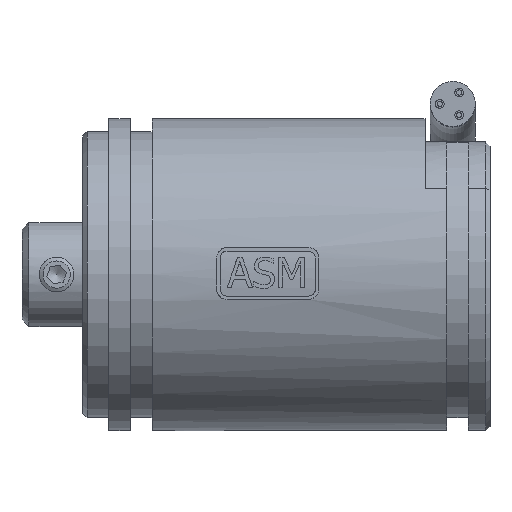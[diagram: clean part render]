
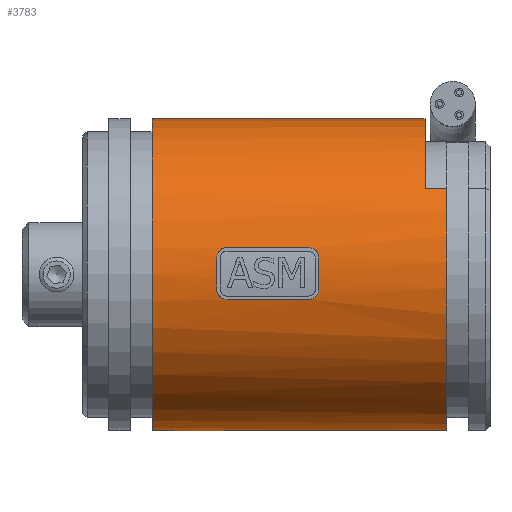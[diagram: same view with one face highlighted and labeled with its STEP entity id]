
A CAD part, top view. The second image highlights one B-rep face of the part: STEP entity #3783.
In plain terms, the highlighted cylindrical face has radius 18 mm (diameter 36 mm), a full revolution.
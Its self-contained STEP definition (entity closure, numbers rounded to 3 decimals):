
#2291=CARTESIAN_POINT('',(-5.538,-1.702,17.919));
#2292=VERTEX_POINT('',#2291);
#2293=CARTESIAN_POINT('',(-5.538,1.887,17.901));
#2294=VERTEX_POINT('',#2293);
#2295=CARTESIAN_POINT('',(-5.538,0.0,0.0));
#2296=DIRECTION('',(-1.0,0.0,0.0));
#2297=DIRECTION('',(0.0,1.0,0.0));
#2298=AXIS2_PLACEMENT_3D('',#2295,#2296,#2297);
#2299=CIRCLE('',#2298,18.);
#2300=EDGE_CURVE('',#2292,#2294,#2299,.T.);
#2371=CARTESIAN_POINT('',(-4.331,3.095,17.732));
#2372=VERTEX_POINT('',#2371);
#2373=CARTESIAN_POINT('',(-5.538,1.887,17.901));
#2374=CARTESIAN_POINT('',(-5.538,2.082,17.88));
#2375=CARTESIAN_POINT('',(-5.487,2.292,17.854));
#2376=CARTESIAN_POINT('',(-5.387,2.473,17.829));
#2377=CARTESIAN_POINT('',(-5.333,2.57,17.816));
#2378=CARTESIAN_POINT('',(-5.266,2.659,17.803));
#2379=CARTESIAN_POINT('',(-5.191,2.734,17.791));
#2380=CARTESIAN_POINT('',(-5.115,2.812,17.779));
#2381=CARTESIAN_POINT('',(-5.024,2.883,17.768));
#2382=CARTESIAN_POINT('',(-4.923,2.939,17.758));
#2383=CARTESIAN_POINT('',(-4.742,3.041,17.741));
#2384=CARTESIAN_POINT('',(-4.528,3.095,17.732));
#2385=CARTESIAN_POINT('',(-4.331,3.095,17.732));
#2386=B_SPLINE_CURVE_WITH_KNOTS('',3,(#2373,#2374,#2375,#2376,#2377,#2378,#2379,#2380,#2381,#2382,#2383,#2384,#2385),.UNSPECIFIED.,.F.,.U.,(4,3,3,3,4),(-0.183,-0.124,-0.092,-0.059,0.0),.UNSPECIFIED.);
#2387=EDGE_CURVE('',#2294,#2372,#2386,.T.);
#2413=CARTESIAN_POINT('',(5.041,3.095,17.732));
#2414=VERTEX_POINT('',#2413);
#2415=CARTESIAN_POINT('',(-4.331,3.095,17.732));
#2416=DIRECTION('',(1.0,0.0,0.0));
#2417=VECTOR('',#2416,9.371);
#2418=LINE('',#2415,#2417);
#2419=EDGE_CURVE('',#2372,#2414,#2418,.T.);
#2444=CARTESIAN_POINT('',(6.248,1.887,17.901));
#2445=VERTEX_POINT('',#2444);
#2446=CARTESIAN_POINT('',(5.041,3.095,17.732));
#2447=CARTESIAN_POINT('',(5.217,3.095,17.732));
#2448=CARTESIAN_POINT('',(5.406,3.053,17.739));
#2449=CARTESIAN_POINT('',(5.573,2.971,17.753));
#2450=CARTESIAN_POINT('',(5.685,2.916,17.762));
#2451=CARTESIAN_POINT('',(5.787,2.844,17.774));
#2452=CARTESIAN_POINT('',(5.872,2.763,17.787));
#2453=CARTESIAN_POINT('',(5.956,2.684,17.799));
#2454=CARTESIAN_POINT('',(6.03,2.591,17.813));
#2455=CARTESIAN_POINT('',(6.089,2.486,17.828));
#2456=CARTESIAN_POINT('',(6.194,2.303,17.853));
#2457=CARTESIAN_POINT('',(6.248,2.087,17.88));
#2458=CARTESIAN_POINT('',(6.248,1.887,17.901));
#2459=B_SPLINE_CURVE_WITH_KNOTS('',3,(#2446,#2447,#2448,#2449,#2450,#2451,#2452,#2453,#2454,#2455,#2456,#2457,#2458),.UNSPECIFIED.,.F.,.U.,(4,3,3,3,4),(0.0,0.053,0.088,0.123,0.183),.UNSPECIFIED.);
#2460=EDGE_CURVE('',#2414,#2445,#2459,.T.);
#2618=CARTESIAN_POINT('',(-4.331,-2.91,17.763));
#2619=VERTEX_POINT('',#2618);
#2620=CARTESIAN_POINT('',(-4.331,-2.91,17.763));
#2621=CARTESIAN_POINT('',(-4.507,-2.91,17.763));
#2622=CARTESIAN_POINT('',(-4.696,-2.868,17.77));
#2623=CARTESIAN_POINT('',(-4.863,-2.786,17.783));
#2624=CARTESIAN_POINT('',(-4.974,-2.732,17.792));
#2625=CARTESIAN_POINT('',(-5.075,-2.661,17.802));
#2626=CARTESIAN_POINT('',(-5.16,-2.58,17.814));
#2627=CARTESIAN_POINT('',(-5.244,-2.5,17.826));
#2628=CARTESIAN_POINT('',(-5.319,-2.407,17.839));
#2629=CARTESIAN_POINT('',(-5.38,-2.301,17.852));
#2630=CARTESIAN_POINT('',(-5.484,-2.118,17.876));
#2631=CARTESIAN_POINT('',(-5.538,-1.902,17.9));
#2632=CARTESIAN_POINT('',(-5.538,-1.702,17.919));
#2633=B_SPLINE_CURVE_WITH_KNOTS('',3,(#2620,#2621,#2622,#2623,#2624,#2625,#2626,#2627,#2628,#2629,#2630,#2631,#2632),.UNSPECIFIED.,.F.,.U.,(4,3,3,3,4),(0.365,0.418,0.453,0.487,0.548),.UNSPECIFIED.);
#2634=EDGE_CURVE('',#2619,#2292,#2633,.T.);
#2660=CARTESIAN_POINT('',(5.041,-2.91,17.763));
#2661=VERTEX_POINT('',#2660);
#2662=CARTESIAN_POINT('',(5.041,-2.91,17.763));
#2663=DIRECTION('',(-1.0,0.0,0.0));
#2664=VECTOR('',#2663,9.371);
#2665=LINE('',#2662,#2664);
#2666=EDGE_CURVE('',#2661,#2619,#2665,.T.);
#2691=CARTESIAN_POINT('',(6.248,-1.702,17.919));
#2692=VERTEX_POINT('',#2691);
#2693=CARTESIAN_POINT('',(6.248,-1.702,17.919));
#2694=CARTESIAN_POINT('',(6.248,-1.897,17.901));
#2695=CARTESIAN_POINT('',(6.197,-2.108,17.877));
#2696=CARTESIAN_POINT('',(6.097,-2.288,17.854));
#2697=CARTESIAN_POINT('',(6.043,-2.385,17.842));
#2698=CARTESIAN_POINT('',(5.975,-2.474,17.829));
#2699=CARTESIAN_POINT('',(5.901,-2.549,17.819));
#2700=CARTESIAN_POINT('',(5.825,-2.627,17.807));
#2701=CARTESIAN_POINT('',(5.734,-2.698,17.797));
#2702=CARTESIAN_POINT('',(5.633,-2.755,17.788));
#2703=CARTESIAN_POINT('',(5.452,-2.857,17.772));
#2704=CARTESIAN_POINT('',(5.238,-2.91,17.763));
#2705=CARTESIAN_POINT('',(5.041,-2.91,17.763));
#2706=B_SPLINE_CURVE_WITH_KNOTS('',3,(#2693,#2694,#2695,#2696,#2697,#2698,#2699,#2700,#2701,#2702,#2703,#2704,#2705),.UNSPECIFIED.,.F.,.U.,(4,3,3,3,4),(0.182,0.241,0.273,0.306,0.365),.UNSPECIFIED.);
#2707=EDGE_CURVE('',#2692,#2661,#2706,.T.);
#2733=CARTESIAN_POINT('',(6.248,0.0,0.0));
#2734=DIRECTION('',(1.0,0.0,0.0));
#2735=DIRECTION('',(0.0,1.0,0.0));
#2736=AXIS2_PLACEMENT_3D('',#2733,#2734,#2735);
#2737=CIRCLE('',#2736,18.);
#2738=EDGE_CURVE('',#2445,#2692,#2737,.T.);
#3714=CARTESIAN_POINT('',(-13.,18.,0.0));
#3715=VERTEX_POINT('',#3714);
#3716=CARTESIAN_POINT('',(-13.,0.0,0.0));
#3717=DIRECTION('',(1.0,0.0,0.0));
#3718=DIRECTION('',(0.0,1.0,0.0));
#3719=AXIS2_PLACEMENT_3D('',#3716,#3717,#3718);
#3720=CIRCLE('',#3719,18.);
#3721=EDGE_CURVE('',#3715,#3715,#3720,.T.);
#3729=CARTESIAN_POINT('',(2.35,0.0,0.0));
#3730=DIRECTION('',(1.0,0.0,0.0));
#3731=DIRECTION('',(0.0,1.0,0.0));
#3732=AXIS2_PLACEMENT_3D('',#3729,#3730,#3731);
#3733=CYLINDRICAL_SURFACE('',#3732,18.);
#3734=CARTESIAN_POINT('',(21.,8.59,-15.818));
#3735=VERTEX_POINT('',#3734);
#3736=CARTESIAN_POINT('',(21.,9.95,15.));
#3737=VERTEX_POINT('',#3736);
#3738=CARTESIAN_POINT('',(21.,0.,0.));
#3739=DIRECTION('',(-1.0,0.0,0.0));
#3740=DIRECTION('',(0.0,0.0,1.0));
#3741=AXIS2_PLACEMENT_3D('',#3738,#3739,#3740);
#3742=CIRCLE('',#3741,18.0);
#3743=EDGE_CURVE('',#3735,#3737,#3742,.T.);
#3744=ORIENTED_EDGE('',*,*,#3743,.T.);
#3745=CARTESIAN_POINT('',(18.5,9.95,15.));
#3746=VERTEX_POINT('',#3745);
#3747=CARTESIAN_POINT('',(18.5,9.95,15.));
#3748=DIRECTION('',(1.0,0.0,0.0));
#3749=VECTOR('',#3748,2.5);
#3750=LINE('',#3747,#3749);
#3751=EDGE_CURVE('',#3746,#3737,#3750,.T.);
#3752=ORIENTED_EDGE('',*,*,#3751,.F.);
#3753=CARTESIAN_POINT('',(18.5,8.59,-15.818));
#3754=VERTEX_POINT('',#3753);
#3755=CARTESIAN_POINT('',(18.5,0.,0.));
#3756=DIRECTION('',(-1.0,0.0,0.0));
#3757=DIRECTION('',(0.0,0.0,1.0));
#3758=AXIS2_PLACEMENT_3D('',#3755,#3756,#3757);
#3759=CIRCLE('',#3758,18.0);
#3760=EDGE_CURVE('',#3746,#3754,#3759,.T.);
#3761=ORIENTED_EDGE('',*,*,#3760,.T.);
#3762=CARTESIAN_POINT('',(18.5,8.59,-15.818));
#3763=DIRECTION('',(1.0,0.0,0.0));
#3764=VECTOR('',#3763,2.5);
#3765=LINE('',#3762,#3764);
#3766=EDGE_CURVE('',#3754,#3735,#3765,.T.);
#3767=ORIENTED_EDGE('',*,*,#3766,.T.);
#3768=EDGE_LOOP('',(#3744,#3752,#3761,#3767));
#3769=FACE_OUTER_BOUND('',#3768,.T.);
#3770=ORIENTED_EDGE('',*,*,#2738,.T.);
#3771=ORIENTED_EDGE('',*,*,#2707,.T.);
#3772=ORIENTED_EDGE('',*,*,#2666,.T.);
#3773=ORIENTED_EDGE('',*,*,#2634,.T.);
#3774=ORIENTED_EDGE('',*,*,#2300,.T.);
#3775=ORIENTED_EDGE('',*,*,#2387,.T.);
#3776=ORIENTED_EDGE('',*,*,#2419,.T.);
#3777=ORIENTED_EDGE('',*,*,#2460,.T.);
#3778=EDGE_LOOP('',(#3770,#3771,#3772,#3773,#3774,#3775,#3776,#3777));
#3779=FACE_BOUND('',#3778,.T.);
#3780=ORIENTED_EDGE('',*,*,#3721,.T.);
#3781=EDGE_LOOP('',(#3780));
#3782=FACE_BOUND('',#3781,.T.);
#3783=ADVANCED_FACE('',(#3769,#3779,#3782),#3733,.T.);
